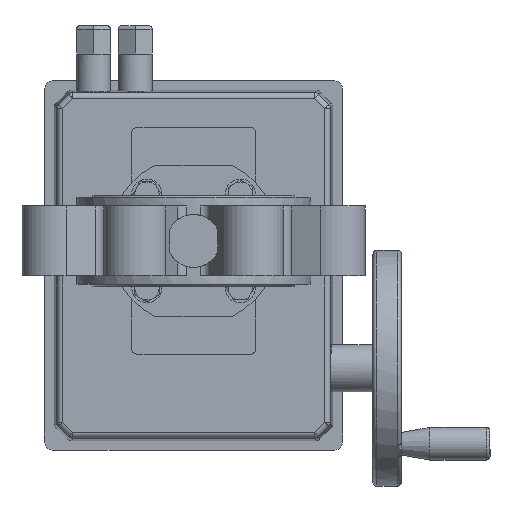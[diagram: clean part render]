
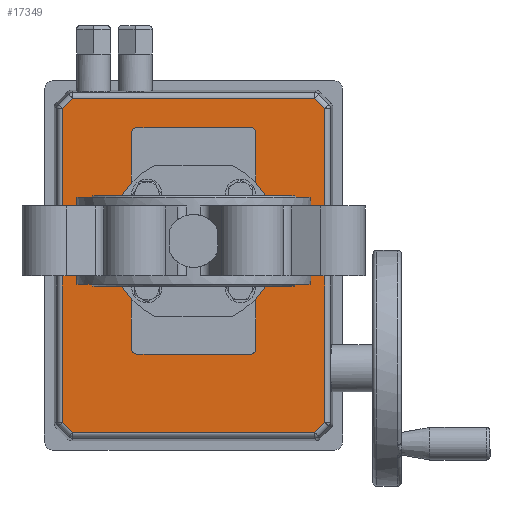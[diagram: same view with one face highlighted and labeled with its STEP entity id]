
A CAD part, front view. The second image highlights one B-rep face of the part: STEP entity #17349.
In plain terms, the highlighted planar face has unit normal (0, -1, 0).
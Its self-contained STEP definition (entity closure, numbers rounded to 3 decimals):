
#202 = ORIENTED_EDGE ( 'NONE', *, *, #7746, .F. ) ;
#221 = CIRCLE ( 'NONE', #7114, 3. ) ;
#224 = VERTEX_POINT ( 'NONE', #4895 ) ;
#286 = LINE ( 'NONE', #6903, #4067 ) ;
#321 = VERTEX_POINT ( 'NONE', #25099 ) ;
#507 = EDGE_CURVE ( 'NONE', #5692, #16152, #19080, .T. ) ;
#701 = CARTESIAN_POINT ( 'NONE',  ( 57., -45., -30. ) ) ;
#1039 = ORIENTED_EDGE ( 'NONE', *, *, #20211, .T. ) ;
#1110 = ORIENTED_EDGE ( 'NONE', *, *, #10449, .T. ) ;
#1226 = VECTOR ( 'NONE', #28388, 1000. ) ;
#1560 = CARTESIAN_POINT ( 'NONE',  ( 101.531, -45., 0. ) ) ;
#1628 = CARTESIAN_POINT ( 'NONE',  ( -57., -45., 30. ) ) ;
#1678 = ORIENTED_EDGE ( 'NONE', *, *, #13151, .T. ) ;
#1852 = CARTESIAN_POINT ( 'NONE',  ( -69.84, -45., -69.84 ) ) ;
#1877 = LINE ( 'NONE', #12847, #27895 ) ;
#1950 = LINE ( 'NONE', #26504, #1226 ) ;
#2055 = CARTESIAN_POINT ( 'NONE',  ( 96.149, -45., 69.531 ) ) ;
#2082 = CARTESIAN_POINT ( 'NONE',  ( -71.349, -45., 69.531 ) ) ;
#2195 = CARTESIAN_POINT ( 'NONE',  ( 60., -45., 30. ) ) ;
#2241 = AXIS2_PLACEMENT_3D ( 'NONE', #1628, #19414, #13015 ) ;
#2298 = DIRECTION ( 'NONE',  ( 0., 1., 0. ) ) ;
#2434 = DIRECTION ( 'NONE',  ( 0., 0., 1. ) ) ;
#2493 = VECTOR ( 'NONE', #15285, 1000. ) ;
#2601 = ORIENTED_EDGE ( 'NONE', *, *, #11126, .T. ) ;
#2703 = LINE ( 'NONE', #24658, #10635 ) ;
#2709 = CARTESIAN_POINT ( 'NONE',  ( 60., -45., 0. ) ) ;
#2916 = VERTEX_POINT ( 'NONE', #5979 ) ;
#3643 = EDGE_LOOP ( 'NONE', ( #202, #11164, #9486, #4065, #1110, #11750, #26570, #23011 ) ) ;
#3805 = LINE ( 'NONE', #14510, #11244 ) ;
#3815 = VECTOR ( 'NONE', #19512, 1000. ) ;
#3902 = EDGE_CURVE ( 'NONE', #321, #24051, #2703, .T. ) ;
#4065 = ORIENTED_EDGE ( 'NONE', *, *, #12772, .T. ) ;
#4067 = VECTOR ( 'NONE', #24816, 1000. ) ;
#4585 = LINE ( 'NONE', #1852, #18028 ) ;
#4703 = CARTESIAN_POINT ( 'NONE',  ( 57., -45., -33. ) ) ;
#4770 = EDGE_CURVE ( 'NONE', #16152, #15248, #8484, .T. ) ;
#4895 = CARTESIAN_POINT ( 'NONE',  ( -60., -45., 30. ) ) ;
#4981 = EDGE_LOOP ( 'NONE', ( #6917, #1678, #1039, #16894, #9195, #21213, #2601, #19481 ) ) ;
#5591 = EDGE_CURVE ( 'NONE', #224, #20179, #15611, .T. ) ;
#5692 = VERTEX_POINT ( 'NONE', #13435 ) ;
#5979 = CARTESIAN_POINT ( 'NONE',  ( -70.149, -45., 69.531 ) ) ;
#6143 = PLANE ( 'NONE',  #12562 ) ;
#6718 = VERTEX_POINT ( 'NONE', #20261 ) ;
#6890 = LINE ( 'NONE', #2709, #2493 ) ;
#6903 = CARTESIAN_POINT ( 'NONE',  ( -76.38, -45., 63.301 ) ) ;
#6917 = ORIENTED_EDGE ( 'NONE', *, *, #3902, .T. ) ;
#7114 = AXIS2_PLACEMENT_3D ( 'NONE', #701, #2298, #2434 ) ;
#7746 = EDGE_CURVE ( 'NONE', #224, #12652, #1877, .T. ) ;
#7965 = VECTOR ( 'NONE', #25053, 1000. ) ;
#7970 = DIRECTION ( 'NONE',  ( 0., 0., -1. ) ) ;
#8052 = DIRECTION ( 'NONE',  ( 0., 0., 1. ) ) ;
#8072 = VECTOR ( 'NONE', #10891, 1000. ) ;
#8275 = VERTEX_POINT ( 'NONE', #14231 ) ;
#8484 = LINE ( 'NONE', #10645, #3815 ) ;
#9195 = ORIENTED_EDGE ( 'NONE', *, *, #507, .T. ) ;
#9304 = CARTESIAN_POINT ( 'NONE',  ( 101.531, -45., 64.149 ) ) ;
#9323 = DIRECTION ( 'NONE',  ( 0., 0., -1. ) ) ;
#9486 = ORIENTED_EDGE ( 'NONE', *, *, #27096, .T. ) ;
#9786 = VECTOR ( 'NONE', #8052, 1000. ) ;
#10449 = EDGE_CURVE ( 'NONE', #25265, #16750, #6890, .T. ) ;
#10592 = DIRECTION ( 'NONE',  ( 0., 1., 0. ) ) ;
#10635 = VECTOR ( 'NONE', #9323, 1000. ) ;
#10645 = CARTESIAN_POINT ( 'NONE',  ( 82.84, -45., 82.84 ) ) ;
#10891 = DIRECTION ( 'NONE',  ( -1., 0., 0. ) ) ;
#10958 = DIRECTION ( 'NONE',  ( 0.707, 0., -0.707 ) ) ;
#11126 = EDGE_CURVE ( 'NONE', #15248, #2916, #26478, .T. ) ;
#11164 = ORIENTED_EDGE ( 'NONE', *, *, #5591, .T. ) ;
#11244 = VECTOR ( 'NONE', #20869, 1000. ) ;
#11345 = CARTESIAN_POINT ( 'NONE',  ( 57., -45., 30. ) ) ;
#11750 = ORIENTED_EDGE ( 'NONE', *, *, #27696, .T. ) ;
#11907 = CARTESIAN_POINT ( 'NONE',  ( -57., -45., -33. ) ) ;
#11956 = CIRCLE ( 'NONE', #13352, 3. ) ;
#12080 = LINE ( 'NONE', #13830, #17196 ) ;
#12562 = AXIS2_PLACEMENT_3D ( 'NONE', #21606, #10592, #17716 ) ;
#12652 = VERTEX_POINT ( 'NONE', #15110 ) ;
#12772 = EDGE_CURVE ( 'NONE', #23318, #25265, #11956, .T. ) ;
#12847 = CARTESIAN_POINT ( 'NONE',  ( -60., -45., 0. ) ) ;
#13015 = DIRECTION ( 'NONE',  ( 0., 0., 1. ) ) ;
#13151 = EDGE_CURVE ( 'NONE', #24051, #6718, #4585, .T. ) ;
#13221 = FACE_BOUND ( 'NONE', #3643, .T. ) ;
#13352 = AXIS2_PLACEMENT_3D ( 'NONE', #11345, #24610, #24766 ) ;
#13435 = CARTESIAN_POINT ( 'NONE',  ( 101.531, -45., -64.149 ) ) ;
#13830 = CARTESIAN_POINT ( 'NONE',  ( 0., -45., -69.531 ) ) ;
#14062 = CARTESIAN_POINT ( 'NONE',  ( 57., -45., 33. ) ) ;
#14231 = CARTESIAN_POINT ( 'NONE',  ( 96.149, -45., -69.531 ) ) ;
#14510 = CARTESIAN_POINT ( 'NONE',  ( 0., -45., 33. ) ) ;
#14910 = AXIS2_PLACEMENT_3D ( 'NONE', #23787, #15551, #24060 ) ;
#15110 = CARTESIAN_POINT ( 'NONE',  ( -60., -45., -30. ) ) ;
#15248 = VERTEX_POINT ( 'NONE', #2055 ) ;
#15285 = DIRECTION ( 'NONE',  ( 0., 0., -1. ) ) ;
#15551 = DIRECTION ( 'NONE',  ( 0., 1., 0. ) ) ;
#15611 = CIRCLE ( 'NONE', #2241, 3. ) ;
#15809 = EDGE_CURVE ( 'NONE', #2916, #321, #286, .T. ) ;
#16020 = CARTESIAN_POINT ( 'NONE',  ( -57., -45., 33. ) ) ;
#16152 = VERTEX_POINT ( 'NONE', #9304 ) ;
#16750 = VERTEX_POINT ( 'NONE', #26427 ) ;
#16894 = ORIENTED_EDGE ( 'NONE', *, *, #20861, .T. ) ;
#17196 = VECTOR ( 'NONE', #18796, 1000. ) ;
#17349 = ADVANCED_FACE ( 'NONE', ( #19760, #13221 ), #6143, .F. ) ;
#17716 = DIRECTION ( 'NONE',  ( 0., 0., 1. ) ) ;
#18028 = VECTOR ( 'NONE', #10958, 1000. ) ;
#18796 = DIRECTION ( 'NONE',  ( 1., 0., 0. ) ) ;
#19080 = LINE ( 'NONE', #1560, #9786 ) ;
#19414 = DIRECTION ( 'NONE',  ( 0., 1., 0. ) ) ;
#19481 = ORIENTED_EDGE ( 'NONE', *, *, #15809, .T. ) ;
#19512 = DIRECTION ( 'NONE',  ( -0.707, 0., 0.707 ) ) ;
#19760 = FACE_OUTER_BOUND ( 'NONE', #4981, .T. ) ;
#20179 = VERTEX_POINT ( 'NONE', #16020 ) ;
#20199 = LINE ( 'NONE', #22753, #7965 ) ;
#20211 = EDGE_CURVE ( 'NONE', #6718, #8275, #12080, .T. ) ;
#20261 = CARTESIAN_POINT ( 'NONE',  ( -70.149, -45., -69.531 ) ) ;
#20679 = EDGE_CURVE ( 'NONE', #28220, #12652, #27363, .T. ) ;
#20861 = EDGE_CURVE ( 'NONE', #8275, #5692, #20199, .T. ) ;
#20869 = DIRECTION ( 'NONE',  ( 1., 0., 0. ) ) ;
#21213 = ORIENTED_EDGE ( 'NONE', *, *, #4770, .T. ) ;
#21606 = CARTESIAN_POINT ( 'NONE',  ( 0., -45., 0. ) ) ;
#21958 = VERTEX_POINT ( 'NONE', #4703 ) ;
#22753 = CARTESIAN_POINT ( 'NONE',  ( 82.84, -45., -82.84 ) ) ;
#23011 = ORIENTED_EDGE ( 'NONE', *, *, #20679, .T. ) ;
#23139 = EDGE_CURVE ( 'NONE', #28220, #21958, #1950, .T. ) ;
#23318 = VERTEX_POINT ( 'NONE', #14062 ) ;
#23787 = CARTESIAN_POINT ( 'NONE',  ( -57., -45., -30. ) ) ;
#24051 = VERTEX_POINT ( 'NONE', #28359 ) ;
#24060 = DIRECTION ( 'NONE',  ( 0., 0., 1. ) ) ;
#24610 = DIRECTION ( 'NONE',  ( 0., 1., 0. ) ) ;
#24658 = CARTESIAN_POINT ( 'NONE',  ( -75.531, -45., -65.349 ) ) ;
#24766 = DIRECTION ( 'NONE',  ( 0., 0., 1. ) ) ;
#24816 = DIRECTION ( 'NONE',  ( -0.707, 0., -0.707 ) ) ;
#25053 = DIRECTION ( 'NONE',  ( 0.707, 0., 0.707 ) ) ;
#25099 = CARTESIAN_POINT ( 'NONE',  ( -75.531, -45., 64.149 ) ) ;
#25265 = VERTEX_POINT ( 'NONE', #2195 ) ;
#26427 = CARTESIAN_POINT ( 'NONE',  ( 60., -45., -30. ) ) ;
#26478 = LINE ( 'NONE', #2082, #8072 ) ;
#26504 = CARTESIAN_POINT ( 'NONE',  ( 0., -45., -33. ) ) ;
#26570 = ORIENTED_EDGE ( 'NONE', *, *, #23139, .F. ) ;
#27096 = EDGE_CURVE ( 'NONE', #20179, #23318, #3805, .T. ) ;
#27363 = CIRCLE ( 'NONE', #14910, 3. ) ;
#27696 = EDGE_CURVE ( 'NONE', #16750, #21958, #221, .T. ) ;
#27895 = VECTOR ( 'NONE', #7970, 1000. ) ;
#28220 = VERTEX_POINT ( 'NONE', #11907 ) ;
#28359 = CARTESIAN_POINT ( 'NONE',  ( -75.531, -45., -64.149 ) ) ;
#28388 = DIRECTION ( 'NONE',  ( 1., 0., 0. ) ) ;
